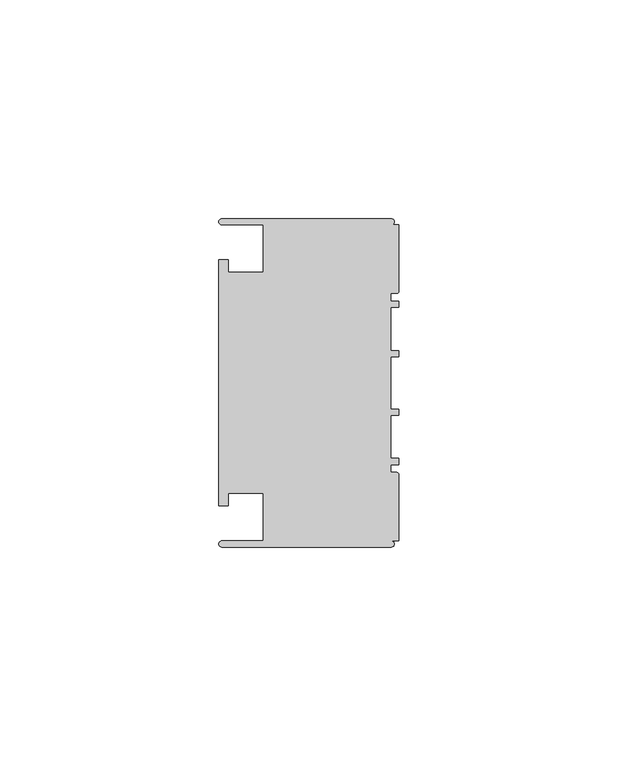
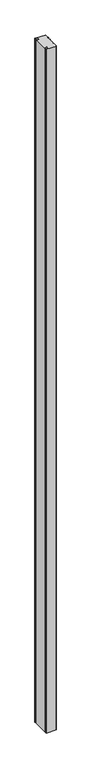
"""IFC4 building model written with IfcOpenShell, lengths in millimetres: member geometry, Прямоугольный импост : 3-AMG-2-Профиль 40Х75 Верх П."""

from ifc_helpers import new_model, si_unit, point, frame, frame_2d, origin, place, context, project, spatial, polyline, circle_curve, trimmed, segment, composite_curve, outline, extrude, source, transform, mapped, element, save


def member_0603b458(model_context):
    return source(origin(), model_context, "Body", "SweptSolid", [
        extrude(outline(composite_curve([segment(polyline([(37.5, -1.7), (37.5, -40.4)]), True, "CONTINUOUS"), segment(trimmed(circle_curve(frame_2d((36.8, -40.4)), 0.7), [point((37.5, -40.4))], [point((36.1, -40.4))], False, "CARTESIAN"), True, "CONTINUOUS"), segment(polyline([(36.1, -40.4), (36.1, -31.0), (25.25, -31.0), (25.25, -39.0), (28.1, -39.0), (28.1, -41.1), (-28.1, -41.1), (-28.1, -39.0), (-25.25, -39.0), (-25.25, -31.0), (-36.1, -31.0), (-36.1, -40.4)]), True, "CONTINUOUS"), segment(trimmed(circle_curve(frame_2d((-36.8, -40.4)), 0.7), [point((-36.1, -40.4))], [point((-37.5, -40.4))], False, "CARTESIAN"), True, "CONTINUOUS"), segment(polyline([(-37.5, -40.4), (-37.5, -1.7)]), True, "CONTINUOUS"), segment(trimmed(circle_curve(frame_2d((-36.8, -1.7)), 0.7), [point((-37.5, -1.7))], [point((-36.1, -1.7))], False, "CARTESIAN"), True, "CONTINUOUS"), segment(polyline([(-36.1, -1.7), (-36.1, 0.0), (-20.95, 0.0)]), True, "CONTINUOUS"), segment(trimmed(circle_curve(frame_2d((-20.95, -0.5)), 0.5), [point((-20.95, 0.0))], [point((-20.45, -0.5))], False, "CARTESIAN"), True, "CONTINUOUS"), segment(polyline([(-20.45, -0.5), (-20.45, -1.8), (-18.65, -1.8), (-18.65, 0.0), (-17.25, 0.0), (-17.25, -1.8), (-7.4, -1.8), (-7.4, 0.0), (-6.0, 0.0), (-6.0, -1.8), (6.0, -1.8), (6.0, 0.0), (7.4, 0.0), (7.4, -1.8), (17.25, -1.8), (17.25, 0.0), (18.65, 0.0), (18.65, -1.8), (20.45, -1.8), (20.45, -0.5)]), True, "CONTINUOUS"), segment(trimmed(circle_curve(frame_2d((20.95, -0.5)), 0.5), [point((20.45, -0.5))], [point((20.95, 0.0))], False, "CARTESIAN"), True, "CONTINUOUS"), segment(polyline([(20.95, 0.0), (36.1, 0.0), (36.1, -1.7)]), True, "CONTINUOUS"), segment(trimmed(circle_curve(frame_2d((36.8, -1.7)), 0.7), [point((36.1, -1.7))], [point((37.5, -1.7))], False, "CARTESIAN"), True, "CONTINUOUS")], self_intersect=False)), frame((0.0, 0.0, 0.0), z_axis=(0.0, 0.0, -1.0), x_axis=(0.0, 1.0, 0.0)), (0.0, 0.0, 1.0), 2800.0),
    ])


if __name__ == "__main__":
    model = new_model("IFC4")
    model_context = context("Model", 3, world=origin())
    ifc_project = project(units=[si_unit("LENGTHUNIT", "METRE", prefix="MILLI")], contexts=[model_context])
    site = spatial("IfcSite", under=ifc_project)
    building = spatial("IfcBuilding", under=site)
    placement = place(None, origin())
    member_shape = member_0603b458(model_context)
    element("IfcMember", 1, ObjectType="Прямоугольный импост : 3-AMG-2-Профиль 40Х75 Верх П", at=placement, inside=building, context=model_context, shape_type="MappedRepresentation", body=[
        mapped(member_shape, transform((0.0, 0.0, 0.0), x_axis=(1.0, 0.0, 0.0), y_axis=(0.0, 1.0, 0.0), z_axis=(0.0, 0.0, 1.0))),
    ])
    save(model, "model.ifc")
